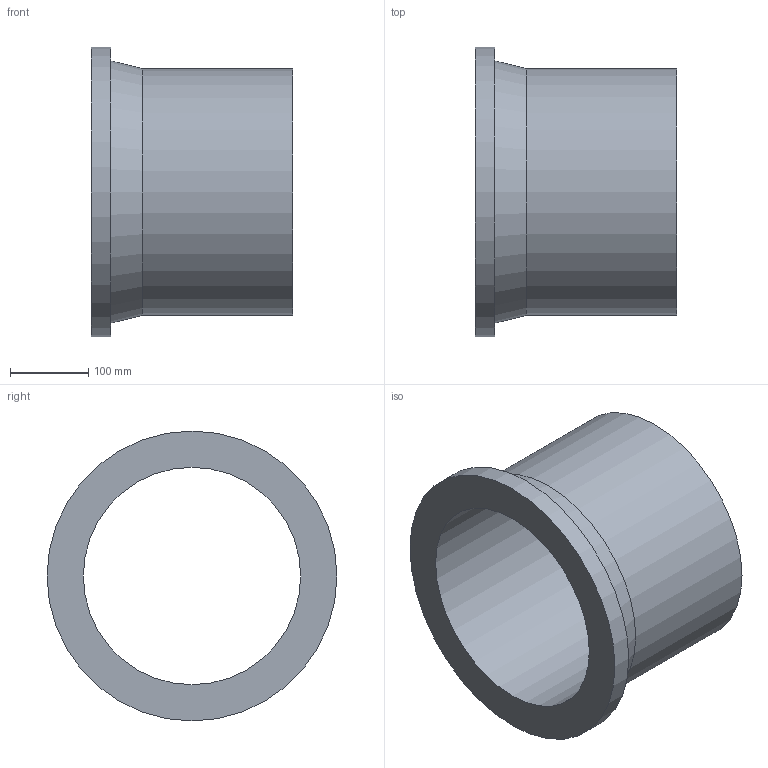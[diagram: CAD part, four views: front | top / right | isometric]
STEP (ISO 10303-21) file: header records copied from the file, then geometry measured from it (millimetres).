
FILE_DESCRIPTION(('Beschreibung'),'1');
FILE_NAME('V:/Ziel/25.80.01.063_SDR_17_PE100_315.STP', '2014-09-15T05:50:22',('Author'), ('Organization'), 'KCM Version 1.1.794.0', 'Kubotek KeyCreator', 'Authorization');
FILE_SCHEMA(('CONFIG_CONTROL_DESIGN'));
Length unit declared in the file: millimetre
Bounding box: 257 x 370 x 370 mm (x, y, z)
Volume: 5415446.8 mm3; surface area: 569075.7 mm2
Topology: 1 solids, 1 shells, 7 faces, 18 edges, 21 vertices
Faces by surface type: cylinder 3, plane 3, cone 1
Full cylindrical faces by diameter (mm): 277.6 x1, 315 x1, 370 x1
Entity records: 286 total; most frequent: DIRECTION 41, CARTESIAN_POINT 33, ORIENTED_EDGE 22, AXIS2_PLACEMENT_3D 15, EDGE_CURVE 11, VECTOR 11, LINE 11, EDGE_LOOP 10
